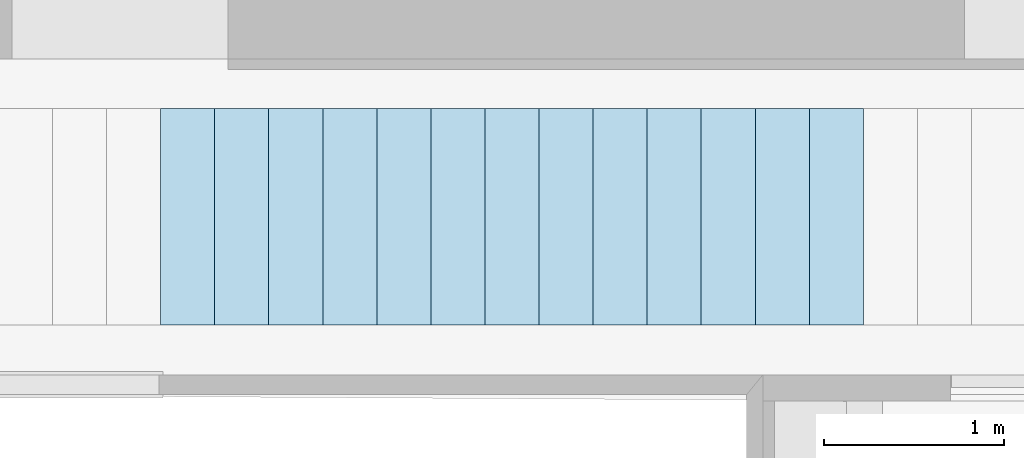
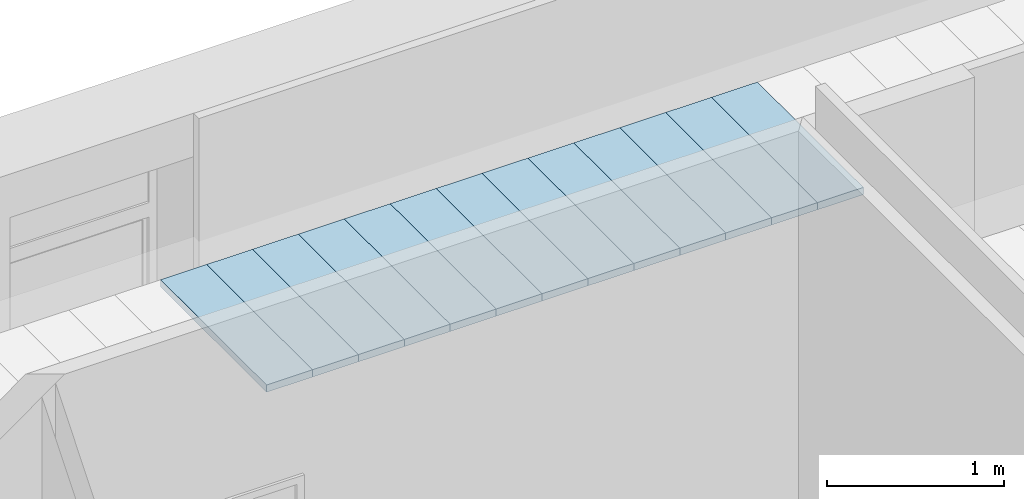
# One storey, part 2 of 60: 13 slabs.
"""IFC2X3 building model written with IfcOpenShell, lengths in millimetres."""

from ifc_helpers import new_model, entity, si_unit, converted_unit, derived_unit, money_unit, direction, frame, origin_with_axes, place, context, subcontext, project, spatial, polyline, outline, extrude, material, layer, layer_set, layer_usage, type_object, element, save


model = new_model("IFC2X3")

# Units and contexts
model_context = context("Model", 3, precision=0.01, world=origin_with_axes(), true_north=direction((0.0, 1.0)))
body_context = subcontext(model_context, "Body", "Model", "MODEL_VIEW")
ifc_project = project(units=[si_unit("LENGTHUNIT", "METRE", prefix="MILLI"), si_unit("AREAUNIT", "SQUARE_METRE"), si_unit("VOLUMEUNIT", "CUBIC_METRE"), converted_unit("PLANEANGLEUNIT", "DEGREE", entity("IfcPlaneAngleMeasure", 0.0174532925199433), si_unit("PLANEANGLEUNIT", "RADIAN"), dimensions=[0, 0, 0, 0, 0, 0, 0]), money_unit("USD"), converted_unit("TIMEUNIT", "Year", entity("IfcTimeMeasure", 31557600.0), si_unit("TIMEUNIT", "SECOND"), dimensions=[0, 0, 1, 0, 0, 0, 0]), si_unit("MASSUNIT", "GRAM", prefix="KILO"), si_unit("THERMODYNAMICTEMPERATUREUNIT", "DEGREE_CELSIUS"), si_unit("LUMINOUSINTENSITYUNIT", "LUMEN"), si_unit("ENERGYUNIT", "JOULE", prefix="MEGA"), derived_unit("THERMALCONDUCTANCEUNIT", [(si_unit("POWERUNIT", "WATT"), 1), (si_unit("LENGTHUNIT", "METRE"), -1), (si_unit("THERMODYNAMICTEMPERATUREUNIT", "KELVIN"), -1)]), derived_unit("SPECIFICHEATCAPACITYUNIT", [(si_unit("ENERGYUNIT", "JOULE"), 1), (si_unit("MASSUNIT", "GRAM", prefix="KILO"), -1), (si_unit("THERMODYNAMICTEMPERATUREUNIT", "KELVIN"), -1)]), derived_unit("MASSDENSITYUNIT", [(si_unit("MASSUNIT", "GRAM", prefix="KILO"), 1), (si_unit("VOLUMEUNIT", "CUBIC_METRE"), -1)])], contexts=[model_context])

# Site, building, storey
site_placement = place(None, origin_with_axes())
site = spatial("IfcSite", under=ifc_project, at=site_placement, Name="Sitio", CompositionType="ELEMENT")
building_placement = place(site_placement, origin_with_axes())
building = spatial("IfcBuilding", under=site, at=building_placement, Name="Construcción", CompositionType="ELEMENT")
storey_placement = place(building_placement, frame((0.0, 0.0, 3650.0), z_axis=(0.0, 0.0, 1.0), x_axis=(1.0, 0.0, 0.0)))
storey = spatial("IfcBuildingStorey", under=building, at=storey_placement, Name="PLANTA 2ª", CompositionType="ELEMENT", Elevation=3650.0)

# Slabs
ifc_material = material(Name="ARQ_ME126_CelRas_Placa_Metallica")
ifc_layer = layer(ifc_material, 50.0, ventilated="UNKNOWN")
ifc_layer_set = layer_set([ifc_layer], Name="ARQ_ME126_CelRas_Placa_Metallica 50")
ifc_layer_usage_1 = layer_usage(ifc_layer_set, "AXIS3", "NEGATIVE", 50.0)
slab_type = type_object("IfcSlabType", Name="ARQ_ME126_CelRas_Placa_Metallica 50", PredefinedType="NOTDEFINED")
slab_1_placement = place(storey_placement, frame((-26370.23708222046, 3586.50452866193, 2500.0), z_axis=(0.0, 0.0, 1.0), x_axis=(1.0, 0.0, 0.0)))
element("IfcSlab", 1, at=slab_1_placement, inside=storey, type_object=slab_type, material=ifc_layer_usage_1, Name="SLA - 026", PredefinedType="NOTDEFINED", context=body_context, shape_type="SweptSolid", body=[
    extrude(outline(polyline([(0.0, 0.0), (0.0, -1199.999999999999), (299.9999999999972, -1199.999999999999), (299.9999999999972, 0.0), (0.0, 0.0)])), frame((0.0, 0.0, -50.0), z_axis=(0.0, 0.0, 1.0), x_axis=(1.0, 0.0, 0.0)), (0.0, 0.0, 1.0), 50.0),
])
ifc_layer_usage_2 = layer_usage(ifc_layer_set, "AXIS3", "NEGATIVE", 50.0)
slab_2_placement = place(storey_placement, frame((-26070.23708222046, 3586.50452866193, 2500.0), z_axis=(0.0, 0.0, 1.0), x_axis=(1.0, 0.0, 0.0)))
element("IfcSlab", 2, at=slab_2_placement, inside=storey, type_object=slab_type, material=ifc_layer_usage_2, Name="SLA - 026", PredefinedType="NOTDEFINED", context=body_context, shape_type="SweptSolid", body=[
    extrude(outline(polyline([(0.0, 0.0), (0.0, -1199.999999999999), (299.9999999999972, -1199.999999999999), (299.9999999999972, 0.0), (0.0, 0.0)])), frame((0.0, 0.0, -50.0), z_axis=(0.0, 0.0, 1.0), x_axis=(1.0, 0.0, 0.0)), (0.0, 0.0, 1.0), 50.0),
])
ifc_layer_usage_3 = layer_usage(ifc_layer_set, "AXIS3", "NEGATIVE", 50.0)
slab_3_placement = place(storey_placement, frame((-25770.23708222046, 3586.50452866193, 2500.0), z_axis=(0.0, 0.0, 1.0), x_axis=(1.0, 0.0, 0.0)))
element("IfcSlab", 3, at=slab_3_placement, inside=storey, type_object=slab_type, material=ifc_layer_usage_3, Name="SLA - 026", PredefinedType="NOTDEFINED", context=body_context, shape_type="SweptSolid", body=[
    extrude(outline(polyline([(0.0, 0.0), (0.0, -1199.999999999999), (300.0000000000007, -1199.999999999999), (300.0000000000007, 0.0), (0.0, 0.0)])), frame((0.0, 0.0, -50.0), z_axis=(0.0, 0.0, 1.0), x_axis=(1.0, 0.0, 0.0)), (0.0, 0.0, 1.0), 50.0),
])
ifc_layer_usage_4 = layer_usage(ifc_layer_set, "AXIS3", "NEGATIVE", 50.0)
slab_4_placement = place(storey_placement, frame((-25470.23708222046, 3586.50452866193, 2500.0), z_axis=(0.0, 0.0, 1.0), x_axis=(1.0, 0.0, 0.0)))
element("IfcSlab", 4, at=slab_4_placement, inside=storey, type_object=slab_type, material=ifc_layer_usage_4, Name="SLA - 026", PredefinedType="NOTDEFINED", context=body_context, shape_type="SweptSolid", body=[
    extrude(outline(polyline([(0.0, 0.0), (0.0, -1199.999999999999), (300.0000000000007, -1199.999999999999), (300.0000000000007, 0.0), (0.0, 0.0)])), frame((0.0, 0.0, -50.0), z_axis=(0.0, 0.0, 1.0), x_axis=(1.0, 0.0, 0.0)), (0.0, 0.0, 1.0), 50.0),
])
ifc_layer_usage_5 = layer_usage(ifc_layer_set, "AXIS3", "NEGATIVE", 50.0)
slab_5_placement = place(storey_placement, frame((-24870.23708222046, 3586.50452866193, 2500.0), z_axis=(0.0, 0.0, 1.0), x_axis=(1.0, 0.0, 0.0)))
element("IfcSlab", 5, at=slab_5_placement, inside=storey, type_object=slab_type, material=ifc_layer_usage_5, Name="SLA - 026", PredefinedType="NOTDEFINED", context=body_context, shape_type="SweptSolid", body=[
    extrude(outline(polyline([(0.0, 0.0), (0.0, -1199.999999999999), (300.0000000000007, -1199.999999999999), (300.0000000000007, 0.0), (0.0, 0.0)])), frame((0.0, 0.0, -50.0), z_axis=(0.0, 0.0, 1.0), x_axis=(1.0, 0.0, 0.0)), (0.0, 0.0, 1.0), 50.0),
])
ifc_layer_usage_6 = layer_usage(ifc_layer_set, "AXIS3", "NEGATIVE", 50.0)
slab_6_placement = place(storey_placement, frame((-24570.23708222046, 3586.50452866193, 2500.0), z_axis=(0.0, 0.0, 1.0), x_axis=(1.0, 0.0, 0.0)))
element("IfcSlab", 6, at=slab_6_placement, inside=storey, type_object=slab_type, material=ifc_layer_usage_6, Name="SLA - 026", PredefinedType="NOTDEFINED", context=body_context, shape_type="SweptSolid", body=[
    extrude(outline(polyline([(0.0, 0.0), (0.0, -1199.999999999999), (300.0000000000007, -1199.999999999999), (300.0000000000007, 0.0), (0.0, 0.0)])), frame((0.0, 0.0, -50.0), z_axis=(0.0, 0.0, 1.0), x_axis=(1.0, 0.0, 0.0)), (0.0, 0.0, 1.0), 50.0),
])
ifc_layer_usage_7 = layer_usage(ifc_layer_set, "AXIS3", "NEGATIVE", 50.0)
slab_7_placement = place(storey_placement, frame((-25170.23708222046, 3586.50452866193, 2500.0), z_axis=(0.0, 0.0, 1.0), x_axis=(1.0, 0.0, 0.0)))
element("IfcSlab", 7, at=slab_7_placement, inside=storey, type_object=slab_type, material=ifc_layer_usage_7, Name="SLA - 026", PredefinedType="NOTDEFINED", context=body_context, shape_type="SweptSolid", body=[
    extrude(outline(polyline([(0.0, 0.0), (0.0, -1199.999999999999), (300.0000000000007, -1199.999999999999), (300.0000000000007, 0.0), (0.0, 0.0)])), frame((0.0, 0.0, -50.0), z_axis=(0.0, 0.0, 1.0), x_axis=(1.0, 0.0, 0.0)), (0.0, 0.0, 1.0), 50.0),
])
ifc_layer_usage_8 = layer_usage(ifc_layer_set, "AXIS3", "NEGATIVE", 50.0)
slab_8_placement = place(storey_placement, frame((-24270.23708222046, 3586.50452866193, 2500.0), z_axis=(0.0, 0.0, 1.0), x_axis=(1.0, 0.0, 0.0)))
element("IfcSlab", 8, at=slab_8_placement, inside=storey, type_object=slab_type, material=ifc_layer_usage_8, Name="SLA - 026", PredefinedType="NOTDEFINED", context=body_context, shape_type="SweptSolid", body=[
    extrude(outline(polyline([(0.0, 0.0), (0.0, -1199.999999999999), (300.0000000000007, -1199.999999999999), (300.0000000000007, 0.0), (0.0, 0.0)])), frame((0.0, 0.0, -50.0), z_axis=(0.0, 0.0, 1.0), x_axis=(1.0, 0.0, 0.0)), (0.0, 0.0, 1.0), 50.0),
])
ifc_layer_usage_9 = layer_usage(ifc_layer_set, "AXIS3", "NEGATIVE", 50.0)
slab_9_placement = place(storey_placement, frame((-23970.23708222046, 3586.50452866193, 2500.0), z_axis=(0.0, 0.0, 1.0), x_axis=(1.0, 0.0, 0.0)))
element("IfcSlab", 9, at=slab_9_placement, inside=storey, type_object=slab_type, material=ifc_layer_usage_9, Name="SLA - 026", PredefinedType="NOTDEFINED", context=body_context, shape_type="SweptSolid", body=[
    extrude(outline(polyline([(0.0, 0.0), (0.0, -1199.999999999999), (300.0000000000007, -1199.999999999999), (300.0000000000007, 0.0), (0.0, 0.0)])), frame((0.0, 0.0, -50.0), z_axis=(0.0, 0.0, 1.0), x_axis=(1.0, 0.0, 0.0)), (0.0, 0.0, 1.0), 50.0),
])
ifc_layer_usage_10 = layer_usage(ifc_layer_set, "AXIS3", "NEGATIVE", 50.0)
slab_10_placement = place(storey_placement, frame((-23370.23708222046, 3586.50452866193, 2500.0), z_axis=(0.0, 0.0, 1.0), x_axis=(1.0, 0.0, 0.0)))
element("IfcSlab", 10, at=slab_10_placement, inside=storey, type_object=slab_type, material=ifc_layer_usage_10, Name="SLA - 026", PredefinedType="NOTDEFINED", context=body_context, shape_type="SweptSolid", body=[
    extrude(outline(polyline([(0.0, 0.0), (0.0, -1199.999999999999), (300.0000000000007, -1199.999999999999), (300.0000000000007, 0.0), (0.0, 0.0)])), frame((0.0, 0.0, -50.0), z_axis=(0.0, 0.0, 1.0), x_axis=(1.0, 0.0, 0.0)), (0.0, 0.0, 1.0), 50.0),
])
ifc_layer_usage_11 = layer_usage(ifc_layer_set, "AXIS3", "NEGATIVE", 50.0)
slab_11_placement = place(storey_placement, frame((-23670.23708222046, 3586.50452866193, 2500.0), z_axis=(0.0, 0.0, 1.0), x_axis=(1.0, 0.0, 0.0)))
element("IfcSlab", 11, at=slab_11_placement, inside=storey, type_object=slab_type, material=ifc_layer_usage_11, Name="SLA - 026", PredefinedType="NOTDEFINED", context=body_context, shape_type="SweptSolid", body=[
    extrude(outline(polyline([(0.0, 0.0), (0.0, -1199.999999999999), (300.0000000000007, -1199.999999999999), (300.0000000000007, 0.0), (0.0, 0.0)])), frame((0.0, 0.0, -50.0), z_axis=(0.0, 0.0, 1.0), x_axis=(1.0, 0.0, 0.0)), (0.0, 0.0, 1.0), 50.0),
])
ifc_layer_usage_12 = layer_usage(ifc_layer_set, "AXIS3", "NEGATIVE", 50.0)
slab_12_placement = place(storey_placement, frame((-22770.23708222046, 3586.50452866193, 2500.0), z_axis=(0.0, 0.0, 1.0), x_axis=(1.0, 0.0, 0.0)))
element("IfcSlab", 12, at=slab_12_placement, inside=storey, type_object=slab_type, material=ifc_layer_usage_12, Name="SLA - 026", PredefinedType="NOTDEFINED", context=body_context, shape_type="SweptSolid", body=[
    extrude(outline(polyline([(0.0, 0.0), (0.0, -1199.999999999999), (300.0000000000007, -1199.999999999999), (300.0000000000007, 0.0), (0.0, 0.0)])), frame((0.0, 0.0, -50.0), z_axis=(0.0, 0.0, 1.0), x_axis=(1.0, 0.0, 0.0)), (0.0, 0.0, 1.0), 50.0),
])
ifc_layer_usage_13 = layer_usage(ifc_layer_set, "AXIS3", "NEGATIVE", 50.0)
slab_13_placement = place(storey_placement, frame((-23070.23708222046, 3586.50452866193, 2500.0), z_axis=(0.0, 0.0, 1.0), x_axis=(1.0, 0.0, 0.0)))
element("IfcSlab", 13, at=slab_13_placement, inside=storey, type_object=slab_type, material=ifc_layer_usage_13, Name="SLA - 026", PredefinedType="NOTDEFINED", context=body_context, shape_type="SweptSolid", body=[
    extrude(outline(polyline([(0.0, 0.0), (0.0, -1199.999999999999), (300.0000000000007, -1199.999999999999), (300.0000000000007, 0.0), (0.0, 0.0)])), frame((0.0, 0.0, -50.0), z_axis=(0.0, 0.0, 1.0), x_axis=(1.0, 0.0, 0.0)), (0.0, 0.0, 1.0), 50.0),
])

save(model, "model.ifc")
